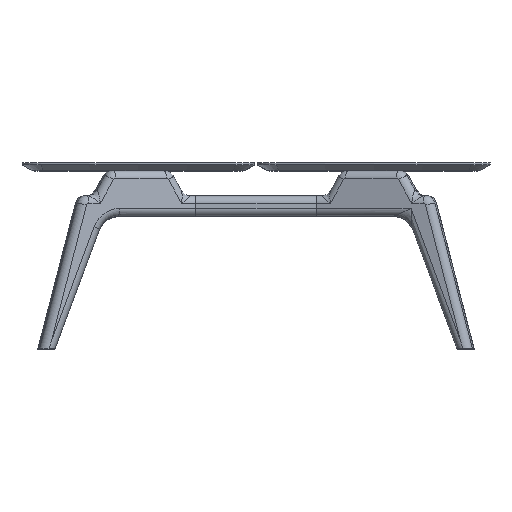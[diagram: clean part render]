
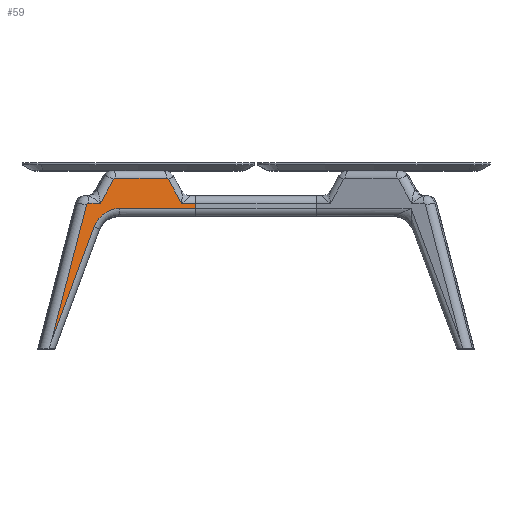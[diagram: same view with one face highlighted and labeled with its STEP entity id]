
A CAD part, top view. The second image highlights one B-rep face of the part: STEP entity #59.
In plain terms, the highlighted planar face has unit normal (0.276, 0, 0.961) as drawn and (0, 0, 1) by its records, which use the part's own axes.
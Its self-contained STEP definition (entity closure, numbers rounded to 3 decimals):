
#30 = DIRECTION ( 'NONE',  ( 0., 0., 1. ) ) ;
#46 = AXIS2_PLACEMENT_3D ( 'NONE', #543, #30, #3620 ) ;
#59 = ADVANCED_FACE ( 'NONE', ( #4788 ), #3210, .T. ) ;
#136 = VERTEX_POINT ( 'NONE', #3290 ) ;
#138 = CARTESIAN_POINT ( 'NONE',  ( 219.457, 337.5, 40. ) ) ;
#163 = VERTEX_POINT ( 'NONE', #1037 ) ;
#261 = DIRECTION ( 'NONE',  ( 1., 0., 0. ) ) ;
#267 = EDGE_CURVE ( 'NONE', #4305, #136, #1406, .T. ) ;
#414 = EDGE_LOOP ( 'NONE', ( #4827, #963, #3013, #1690, #5796, #2145, #4352, #5211, #3463, #557, #1870, #4164, #3085 ) ) ;
#542 = CARTESIAN_POINT ( 'NONE',  ( -15.511, -3.882, 40. ) ) ;
#543 = CARTESIAN_POINT ( 'NONE',  ( 0., 0., 40. ) ) ;
#557 = ORIENTED_EDGE ( 'NONE', *, *, #2314, .T. ) ;
#666 = DIRECTION ( 'NONE',  ( 1., 0., 0. ) ) ;
#816 = VERTEX_POINT ( 'NONE', #2332 ) ;
#842 = VECTOR ( 'NONE', #4222, 1000. ) ;
#877 = EDGE_CURVE ( 'NONE', #4305, #3560, #5146, .T. ) ;
#963 = ORIENTED_EDGE ( 'NONE', *, *, #4871, .T. ) ;
#1037 = CARTESIAN_POINT ( 'NONE',  ( 251.787, 281.503, 40. ) ) ;
#1068 = CARTESIAN_POINT ( 'NONE',  ( 92.438, 289.003, 40. ) ) ;
#1085 = CARTESIAN_POINT ( 'NONE',  ( 49.448, 281.503, 40. ) ) ;
#1259 = CIRCLE ( 'NONE', #2759, 5. ) ;
#1406 = CIRCLE ( 'NONE', #3256, 5. ) ;
#1477 = LINE ( 'NONE', #1068, #2670 ) ;
#1656 = DIRECTION ( 'NONE',  ( 1., 0., 0. ) ) ;
#1684 = DIRECTION ( 'NONE',  ( 1., 0., 0. ) ) ;
#1689 = VERTEX_POINT ( 'NONE', #2496 ) ;
#1690 = ORIENTED_EDGE ( 'NONE', *, *, #267, .F. ) ;
#1749 = CARTESIAN_POINT ( 'NONE',  ( 75.56, 236.384, 40. ) ) ;
#1757 = VECTOR ( 'NONE', #3345, 1000. ) ;
#1865 = DIRECTION ( 'NONE',  ( -1., 0., 0. ) ) ;
#1870 = ORIENTED_EDGE ( 'NONE', *, *, #4280, .T. ) ;
#1905 = VECTOR ( 'NONE', #5251, 1000. ) ;
#1998 = EDGE_CURVE ( 'NONE', #5101, #4003, #1259, .T. ) ;
#2037 = LINE ( 'NONE', #2424, #842 ) ;
#2145 = ORIENTED_EDGE ( 'NONE', *, *, #5014, .T. ) ;
#2174 = VECTOR ( 'NONE', #1865, 1000. ) ;
#2270 = DIRECTION ( 'NONE',  ( -0.259, -0.966, 0. ) ) ;
#2274 = VERTEX_POINT ( 'NONE', #2849 ) ;
#2314 = EDGE_CURVE ( 'NONE', #4594, #163, #2037, .T. ) ;
#2332 = CARTESIAN_POINT ( 'NONE',  ( 114.665, 327.5, 40. ) ) ;
#2401 = DIRECTION ( 'NONE',  ( 1., 0., 0. ) ) ;
#2424 = CARTESIAN_POINT ( 'NONE',  ( 260.448, 281.503, 40. ) ) ;
#2459 = CARTESIAN_POINT ( 'NONE',  ( -10.853, 13.503, 40. ) ) ;
#2471 = CARTESIAN_POINT ( 'NONE',  ( 88.108, 281.503, 40. ) ) ;
#2496 = CARTESIAN_POINT ( 'NONE',  ( 126.84, 271.503, 40. ) ) ;
#2506 = VERTEX_POINT ( 'NONE', #1749 ) ;
#2567 = CARTESIAN_POINT ( 'NONE',  ( 280.448, 271.503, 40. ) ) ;
#2611 = CARTESIAN_POINT ( 'NONE',  ( 220.901, 325., 40. ) ) ;
#2670 = VECTOR ( 'NONE', #5560, 1000. ) ;
#2759 = AXIS2_PLACEMENT_3D ( 'NONE', #2611, #5749, #1656 ) ;
#2777 = CARTESIAN_POINT ( 'NONE',  ( 107.448, 330., 40. ) ) ;
#2845 = EDGE_CURVE ( 'NONE', #3015, #136, #4366, .T. ) ;
#2849 = CARTESIAN_POINT ( 'NONE',  ( 118.995, 330., 40. ) ) ;
#2872 = EDGE_CURVE ( 'NONE', #2506, #1689, #3156, .T. ) ;
#3013 = ORIENTED_EDGE ( 'NONE', *, *, #2845, .T. ) ;
#3015 = VERTEX_POINT ( 'NONE', #2471 ) ;
#3026 = VECTOR ( 'NONE', #2401, 1000. ) ;
#3085 = ORIENTED_EDGE ( 'NONE', *, *, #4675, .T. ) ;
#3095 = CARTESIAN_POINT ( 'NONE',  ( 118.995, 325., 40. ) ) ;
#3156 = CIRCLE ( 'NONE', #4646, 55. ) ;
#3210 = PLANE ( 'NONE',  #46 ) ;
#3256 = AXIS2_PLACEMENT_3D ( 'NONE', #4328, #4282, #261 ) ;
#3290 = CARTESIAN_POINT ( 'NONE',  ( 64.794, 281.503, 40. ) ) ;
#3345 = DIRECTION ( 'NONE',  ( -0.5, 0.866, 0. ) ) ;
#3351 = DIRECTION ( 'NONE',  ( 0., 0., -1. ) ) ;
#3463 = ORIENTED_EDGE ( 'NONE', *, *, #5569, .F. ) ;
#3560 = VERTEX_POINT ( 'NONE', #2459 ) ;
#3594 = LINE ( 'NONE', #4338, #1905 ) ;
#3611 = CARTESIAN_POINT ( 'NONE',  ( 280.448, 281.503, 40. ) ) ;
#3620 = DIRECTION ( 'NONE',  ( 1., 0., 0. ) ) ;
#3981 = CARTESIAN_POINT ( 'NONE',  ( 225.231, 327.5, 40. ) ) ;
#3989 = DIRECTION ( 'NONE',  ( 0., 0., -1. ) ) ;
#4003 = VERTEX_POINT ( 'NONE', #3981 ) ;
#4052 = AXIS2_PLACEMENT_3D ( 'NONE', #3095, #3989, #1684 ) ;
#4164 = ORIENTED_EDGE ( 'NONE', *, *, #1998, .F. ) ;
#4222 = DIRECTION ( 'NONE',  ( -1., 0., 0. ) ) ;
#4250 = DIRECTION ( 'NONE',  ( -1., 0., 0. ) ) ;
#4280 = EDGE_CURVE ( 'NONE', #163, #4003, #5272, .T. ) ;
#4282 = DIRECTION ( 'NONE',  ( 0., 0., -1. ) ) ;
#4303 = VECTOR ( 'NONE', #5458, 1000. ) ;
#4305 = VERTEX_POINT ( 'NONE', #4782 ) ;
#4328 = CARTESIAN_POINT ( 'NONE',  ( 64.794, 276.503, 40. ) ) ;
#4338 = CARTESIAN_POINT ( 'NONE',  ( 75.56, 236.384, 40. ) ) ;
#4352 = ORIENTED_EDGE ( 'NONE', *, *, #2872, .T. ) ;
#4366 = LINE ( 'NONE', #1085, #4908 ) ;
#4507 = EDGE_CURVE ( 'NONE', #816, #2274, #4931, .T. ) ;
#4586 = CARTESIAN_POINT ( 'NONE',  ( 280.448, 427., 40. ) ) ;
#4594 = VERTEX_POINT ( 'NONE', #3611 ) ;
#4646 = AXIS2_PLACEMENT_3D ( 'NONE', #5577, #3351, #666 ) ;
#4675 = EDGE_CURVE ( 'NONE', #5101, #2274, #4716, .T. ) ;
#4716 = LINE ( 'NONE', #2777, #2174 ) ;
#4733 = CARTESIAN_POINT ( 'NONE',  ( 220.901, 330., 40. ) ) ;
#4782 = CARTESIAN_POINT ( 'NONE',  ( 59.965, 277.797, 40. ) ) ;
#4788 = FACE_OUTER_BOUND ( 'NONE', #414, .T. ) ;
#4827 = ORIENTED_EDGE ( 'NONE', *, *, #4507, .F. ) ;
#4841 = LINE ( 'NONE', #5110, #3026 ) ;
#4871 = EDGE_CURVE ( 'NONE', #816, #3015, #1477, .T. ) ;
#4908 = VECTOR ( 'NONE', #4250, 1000. ) ;
#4931 = CIRCLE ( 'NONE', #4052, 5. ) ;
#5004 = VERTEX_POINT ( 'NONE', #2567 ) ;
#5014 = EDGE_CURVE ( 'NONE', #3560, #2506, #3594, .T. ) ;
#5101 = VERTEX_POINT ( 'NONE', #4733 ) ;
#5110 = CARTESIAN_POINT ( 'NONE',  ( 280.448, 271.503, 40. ) ) ;
#5146 = LINE ( 'NONE', #542, #5336 ) ;
#5211 = ORIENTED_EDGE ( 'NONE', *, *, #5612, .T. ) ;
#5251 = DIRECTION ( 'NONE',  ( 0.361, 0.932, 0. ) ) ;
#5272 = LINE ( 'NONE', #138, #1757 ) ;
#5319 = LINE ( 'NONE', #4586, #4303 ) ;
#5336 = VECTOR ( 'NONE', #2270, 1000. ) ;
#5458 = DIRECTION ( 'NONE',  ( 0., -1., 0. ) ) ;
#5560 = DIRECTION ( 'NONE',  ( -0.5, -0.866, 0. ) ) ;
#5569 = EDGE_CURVE ( 'NONE', #4594, #5004, #5319, .T. ) ;
#5577 = CARTESIAN_POINT ( 'NONE',  ( 126.84, 216.503, 40. ) ) ;
#5612 = EDGE_CURVE ( 'NONE', #1689, #5004, #4841, .T. ) ;
#5749 = DIRECTION ( 'NONE',  ( 0., 0., -1. ) ) ;
#5796 = ORIENTED_EDGE ( 'NONE', *, *, #877, .T. ) ;
